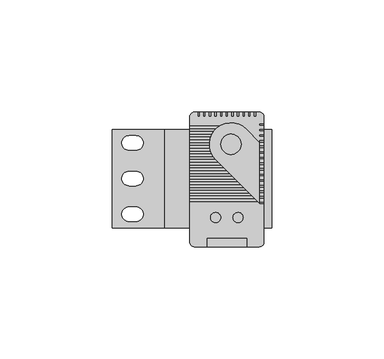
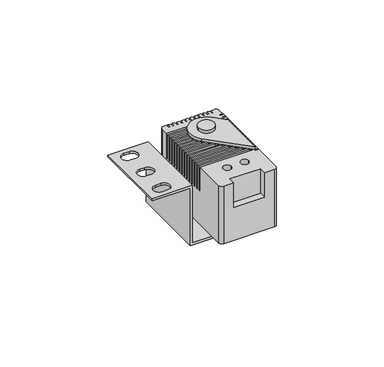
"""IFC4 building model written with IfcOpenShell, lengths in millimetres: proxy geometry, Термостат : TS-A1."""

from ifc_helpers import new_model, si_unit, point, frame, frame_2d, origin, place, context, project, spatial, polyline, circle_curve, trimmed, segment, composite_curve, outline, extrude, source, transform, mapped, element, save
from ifc_brep_helpers import plane_surface, cylinder_surface, revolved_surface, advanced_brep


def generic_models_4512c85f(model_context):
    return source(origin(), model_context, "Body", "SolidModel", [
        advanced_brep(
        [(18.5, 27.7, 36.2), (16.5, 29.7, 36.2), (15.0, 29.7, 36.2), (15.0, 27.7, 36.2), (14.0, 27.7, 36.2), (14.0, 29.7, 36.2), (12.5, 29.7, 36.2), (12.5, 27.7, 36.2), (11.5, 27.7, 36.2), (11.5, 29.7, 36.2), (10.0, 29.7, 36.2), (10.0, 27.7, 36.2), (9.0, 27.7, 36.2), (9.0, 29.7, 36.2), (7.5, 29.7, 36.2), (7.5, 27.7, 36.2), (6.5, 27.7, 36.2), (6.5, 29.7, 36.2), (5.0, 29.7, 36.2), (5.0, 27.7, 36.2), (4.0, 27.7, 36.2), (4.0, 29.7, 36.2), (2.5, 29.7, 36.2), (2.5, 27.7, 36.2), (1.5, 27.7, 36.2), (1.5, 29.7, 36.2), (0.0, 29.7, 36.2), (0.0, 27.7, 36.2), (-1.0, 27.7, 36.2), (-1.0, 29.7, 36.2), (-2.5, 29.7, 36.2), (-2.5, 27.7, 36.2), (-3.5, 27.7, 36.2), (-3.5, 29.7, 36.2), (-5.0, 29.7, 36.2), (-5.0, 27.7, 36.2), (-6.0, 27.7, 36.2), (-6.0, 29.7, 36.2), (-7.5, 29.7, 36.2), (-7.5, 27.7, 36.2), (-8.5, 27.7, 36.2), (-8.5, 29.7, 36.2), (-10.0, 29.7, 36.2), (-10.0, 27.7, 36.2), (-11.0, 27.7, 36.2), (-11.0, 29.7, 36.2), (-12.5, 29.7, 36.2), (-14.5, 27.7, 36.2), (-14.5, 23.7, 36.2), (-0.8125329, 23.7, 36.2), (-2.8247644, 22.2, 36.2), (-14.5, 22.2, 36.2), (-14.5, 21.2, 36.2), (-3.7163513, 21.2, 36.2), (-4.6667739, 19.7, 36.2), (-14.5, 19.7, 36.2), (-14.5, 18.7, 36.2), (-5.1066137, 18.7, 36.2), (-5.5304613, 17.2, 36.2), (-14.5, 17.2, 36.2), (-14.5, 16.2, 36.2), (-5.6721227, 16.2, 36.2), (-5.6858442, 14.7, 36.2), (-14.5, 14.7, 36.2), (-14.5, 13.7, 36.2), (-5.5629293, 13.7, 36.2), (-5.1696563, 12.2, 36.2), (-14.5, 12.2, 36.2), (-14.5, 11.2, 36.2), (-4.7533432, 11.2, 36.2), (-3.8477402, 9.7, 36.2), (-14.5, 9.7, 36.2), (-14.5, 8.7, 36.2), (-3.0, 8.7, 36.2), (-1.5, 7.2, 36.2), (-14.5, 7.2, 36.2), (-14.5, 6.2, 36.2), (-0.5, 6.2, 36.2), (1.0, 4.7, 36.2), (-14.5, 4.7, 36.2), (-14.5, 3.7, 36.2), (2.0, 3.7, 36.2), (3.5, 2.2, 36.2), (-14.5, 2.2, 36.2), (-14.5, 1.2, 36.2), (4.5, 1.2, 36.2), (6.0, -0.3, 36.2), (-14.5, -0.3, 36.2), (-14.5, -1.3, 36.2), (7.0, -1.3, 36.2), (8.5, -2.8, 36.2), (-14.5, -2.8, 36.2), (-14.5, -3.8, 36.2), (9.5, -3.8, 36.2), (11.0, -5.3, 36.2), (-14.5, -5.3, 36.2), (-14.5, -6.3, 36.2), (12.0, -6.3, 36.2), (13.5, -7.8, 36.2), (-14.5, -7.8, 36.2), (-14.5, -8.8, 36.2), (14.5, -8.8, 36.2), (16.0, -10.3, 36.2), (-14.5, -10.3, 36.2), (-14.5, -28.3, 36.2), (-12.5, -30.3, 36.2), (-7.0, -30.3, 36.2), (-7.0, -26.3, 36.2), (11.0, -26.3, 36.2), (11.0, -30.3, 36.2), (16.5, -30.3, 36.2), (18.5, -28.3, 36.2), (18.5, -11.3, 36.2), (16.5, -11.3, 36.2), (16.5, -10.3, 36.2), (18.5, -10.3, 36.2), (18.5, -8.8, 36.2), (16.5, -8.8, 36.2), (16.5, -7.8, 36.2), (18.5, -7.8, 36.2), (18.5, -6.3, 36.2), (16.5, -6.3, 36.2), (16.5, -5.3, 36.2), (18.5, -5.3, 36.2), (18.5, -3.8, 36.2), (16.5, -3.8, 36.2), (16.5, -2.8, 36.2), (18.5, -2.8, 36.2), (18.5, -1.3, 36.2), (16.5, -1.3, 36.2), (16.5, -0.3, 36.2), (18.5, -0.3, 36.2), (18.5, 1.2, 36.2), (16.5, 1.2, 36.2), (16.5, 2.2, 36.2), (18.5, 2.2, 36.2), (18.5, 3.7, 36.2), (16.5, 3.7, 36.2), (16.5, 4.7, 36.2), (18.5, 4.7, 36.2), (18.5, 6.2, 36.2), (16.5, 6.2, 36.2), (16.5, 7.2, 36.2), (18.5, 7.2, 36.2), (18.5, 8.7, 36.2), (16.5, 8.7, 36.2), (16.5, 9.7, 36.2), (18.5, 9.7, 36.2), (18.5, 11.2, 36.2), (16.5, 11.2, 36.2), (16.5, 12.2, 36.2), (18.5, 12.2, 36.2), (18.5, 13.7, 36.2), (16.5, 13.7, 36.2), (16.5, 14.7, 36.2), (18.5, 14.7, 36.2), (18.5, 16.2, 36.2), (16.5, 16.2, 36.2), (16.5, 17.2, 36.2), (18.5, 17.2, 36.2), (18.5, 18.7, 36.2), (16.5, 18.7, 36.2), (16.5, 19.7, 36.2), (18.5, 19.7, 36.2), (18.5, 21.2, 36.2), (16.5, 21.2, 36.2), (16.5, 22.2, 36.2), (18.5, 22.2, 36.2), (18.5, 23.7, 36.2), (16.5, 23.7, 36.2), (16.5, 24.7, 36.2), (18.5, 24.7, 36.2), (9.25, -17.3, 36.2), (4.75, -17.3, 36.2), (-0.75, -17.3, 36.2), (-5.25, -17.3, 36.2), (18.5, 27.7, 1.2), (18.5, -28.3, 1.2), (16.5, -30.3, 1.2), (-12.5, -30.3, 1.2), (-14.5, -28.3, 1.2), (-14.5, 27.7, 1.2), (-12.5, 29.7, 1.2), (16.5, 29.7, 1.2), (-11.0, 29.7, 21.2), (-10.0, 29.7, 21.2), (-8.5, 29.7, 21.2), (-7.5, 29.7, 21.2), (-6.0, 29.7, 21.2), (-5.0, 29.7, 21.2), (-3.5, 29.7, 21.2), (-2.5, 29.7, 21.2), (-1.0, 29.7, 21.2), (0.0, 29.7, 21.2), (1.5, 29.7, 21.2), (2.5, 29.7, 21.2), (4.0, 29.7, 21.2), (5.0, 29.7, 21.2), (6.5, 29.7, 21.2), (7.5, 29.7, 21.2), (9.0, 29.7, 21.2), (10.0, 29.7, 21.2), (11.5, 29.7, 21.2), (12.5, 29.7, 21.2), (14.0, 29.7, 21.2), (15.0, 29.7, 21.2), (-14.5, -10.3, 21.2), (-14.5, -8.8, 21.2), (-14.5, -7.8, 21.2), (-14.5, -6.3, 21.2), (-14.5, -5.3, 21.2), (-14.5, -3.8, 21.2), (-14.5, -2.8, 21.2), (-14.5, -1.3, 21.2), (-14.5, -0.3, 21.2), (-14.5, 1.2, 21.2), (-14.5, 2.2, 21.2), (-14.5, 3.7, 21.2), (-14.5, 4.7, 21.2), (-14.5, 6.2, 21.2), (-14.5, 7.2, 21.2), (-14.5, 8.7, 21.2), (-14.5, 9.7, 21.2), (-14.5, 11.2, 21.2), (-14.5, 12.2, 21.2), (-14.5, 13.7, 21.2), (-14.5, 14.7, 21.2), (-14.5, 16.2, 21.2), (-14.5, 17.2, 21.2), (-14.5, 18.7, 21.2), (-14.5, 19.7, 21.2), (-14.5, 21.2, 21.2), (-14.5, 22.2, 21.2), (-14.5, 23.7, 21.2), (11.0, -30.3, 21.2), (-7.0, -30.3, 21.2), (18.5, 24.7, 21.2), (18.5, 23.7, 21.2), (18.5, 22.2, 21.2), (18.5, 21.2, 21.2), (18.5, 19.7, 21.2), (18.5, 18.7, 21.2), (18.5, 17.2, 21.2), (18.5, 16.2, 21.2), (18.5, 14.7, 21.2), (18.5, 13.7, 21.2), (18.5, 12.2, 21.2), (18.5, 11.2, 21.2), (18.5, 9.7, 21.2), (18.5, 8.7, 21.2), (18.5, 7.2, 21.2), (18.5, 6.2, 21.2), (18.5, 4.7, 21.2), (18.5, 3.7, 21.2), (18.5, 2.2, 21.2), (18.5, 1.2, 21.2), (18.5, -0.3, 21.2), (18.5, -1.3, 21.2), (18.5, -2.8, 21.2), (18.5, -3.8, 21.2), (18.5, -5.3, 21.2), (18.5, -6.3, 21.2), (18.5, -7.8, 21.2), (18.5, -8.8, 21.2), (18.5, -10.3, 21.2), (18.5, -11.3, 21.2), (4.75, -17.3, 21.2), (9.25, -17.3, 21.2), (-5.25, -17.3, 21.2), (-0.75, -17.3, 21.2), (-7.0, -26.3, 21.2), (11.0, -26.3, 21.2), (14.0, 27.7, 21.2), (15.0, 27.7, 21.2), (11.5, 27.7, 21.2), (12.5, 27.7, 21.2), (9.0, 27.7, 21.2), (10.0, 27.7, 21.2), (6.5, 27.7, 21.2), (7.5, 27.7, 21.2), (4.0, 27.7, 21.2), (5.0, 27.7, 21.2), (1.5, 27.7, 21.2), (2.5, 27.7, 21.2), (-1.0, 27.7, 21.2), (0.0, 27.7, 21.2), (-3.5, 27.7, 21.2), (-2.5, 27.7, 21.2), (-6.0, 27.7, 21.2), (-5.0, 27.7, 21.2), (-8.5, 27.7, 21.2), (-7.5, 27.7, 21.2), (-11.0, 27.7, 21.2), (-10.0, 27.7, 21.2), (16.5, 24.7, 21.2), (16.5, 23.7, 21.2), (16.5, 22.2, 21.2), (16.5, 21.2, 21.2), (16.5, 19.7, 21.2), (16.5, 18.7, 21.2), (16.5, 17.2, 21.2), (16.5, 16.2, 21.2), (16.5, 14.7, 21.2), (16.5, 13.7, 21.2), (16.5, 11.2, 21.2), (16.5, 12.2, 21.2), (16.5, 8.7, 21.2), (16.5, 9.7, 21.2), (16.5, 6.2, 21.2), (16.5, 7.2, 21.2), (16.5, 3.7, 21.2), (16.5, 4.7, 21.2), (16.5, 1.2, 21.2), (16.5, 2.2, 21.2), (16.5, -1.3, 21.2), (16.5, -0.3, 21.2), (16.5, -3.8, 21.2), (16.5, -2.8, 21.2), (16.5, -6.3, 21.2), (16.5, -5.3, 21.2), (16.5, -8.8, 21.2), (16.5, -7.8, 21.2), (16.5, -10.3, 21.2), (16.5, -11.3, 21.2), (-0.8125329, 23.7, 21.2), (-2.8247644, 22.2, 21.2), (-3.7163513, 21.2, 21.2), (-4.6667739, 19.7, 21.2), (-5.1066137, 18.7, 21.2), (-5.5304613, 17.2, 21.2), (-5.6721227, 16.2, 21.2), (-5.6858442, 14.7, 21.2), (-5.5629293, 13.7, 21.2), (-5.1696563, 12.2, 21.2), (-4.7533432, 11.2, 21.2), (-3.8477402, 9.7, 21.2), (-3.0, 8.7, 21.2), (-1.5, 7.2, 21.2), (-0.5, 6.2, 21.2), (1.0, 4.7, 21.2), (2.0, 3.7, 21.2), (3.5, 2.2, 21.2), (4.5, 1.2, 21.2), (6.0, -0.3, 21.2), (7.0, -1.3, 21.2), (8.5, -2.8, 21.2), (9.5, -3.8, 21.2), (11.0, -5.3, 21.2), (12.0, -6.3, 21.2), (13.5, -7.8, 21.2), (14.5, -8.8, 21.2), (16.0, -10.3, 21.2)],
        [
            (0, 1, circle_curve(frame((16.5, 27.7, 36.2), z_axis=(0.0, 0.0, 1.0), x_axis=(1.0, 0.0, 0.0)), 2.0)),
            (1, 2),
            (2, 3),
            (3, 4),
            (4, 5),
            (5, 6),
            (6, 7),
            (7, 8),
            (8, 9),
            (9, 10),
            (10, 11),
            (11, 12),
            (12, 13),
            (13, 14),
            (14, 15),
            (15, 16),
            (16, 17),
            (17, 18),
            (18, 19),
            (19, 20),
            (20, 21),
            (21, 22),
            (22, 23),
            (23, 24),
            (24, 25),
            (25, 26),
            (26, 27),
            (27, 28),
            (28, 29),
            (29, 30),
            (30, 31),
            (31, 32),
            (32, 33),
            (33, 34),
            (34, 35),
            (35, 36),
            (36, 37),
            (37, 38),
            (38, 39),
            (39, 40),
            (40, 41),
            (41, 42),
            (42, 43),
            (43, 44),
            (44, 45),
            (45, 46),
            (46, 47, circle_curve(frame((-12.5, 27.7, 36.2), z_axis=(0.0, 0.0, 1.0), x_axis=(1.0, 0.0, 0.0)), 2.0)),
            (47, 48),
            (48, 49),
            (49, 50, circle_curve(frame((3.8370491, 15.3629509, 36.2), z_axis=(0.0, 0.0, 1.0), x_axis=(1.0, 0.0, 0.0)), 9.5459415)),
            (50, 51),
            (51, 52),
            (52, 53),
            (53, 54, circle_curve(frame((3.8370491, 15.3629509, 36.2), z_axis=(0.0, 0.0, 1.0), x_axis=(1.0, 0.0, 0.0)), 9.5459415)),
            (54, 55),
            (55, 56),
            (56, 57),
            (57, 58, circle_curve(frame((3.8370491, 15.3629509, 36.2), z_axis=(0.0, 0.0, 1.0), x_axis=(1.0, 0.0, 0.0)), 9.5459415)),
            (58, 59),
            (59, 60),
            (60, 61),
            (61, 62, circle_curve(frame((3.8370491, 15.3629509, 36.2), z_axis=(0.0, 0.0, 1.0), x_axis=(1.0, 0.0, 0.0)), 9.5459415)),
            (62, 63),
            (63, 64),
            (64, 65),
            (65, 66, circle_curve(frame((3.8370491, 15.3629509, 36.2), z_axis=(0.0, 0.0, 1.0), x_axis=(1.0, 0.0, 0.0)), 9.5459415)),
            (66, 67),
            (67, 68),
            (68, 69),
            (69, 70, circle_curve(frame((3.8370491, 15.3629509, 36.2), z_axis=(0.0, 0.0, 1.0), x_axis=(1.0, 0.0, 0.0)), 9.5459415)),
            (70, 71),
            (71, 72),
            (72, 73),
            (73, 74),
            (74, 75),
            (75, 76),
            (76, 77),
            (77, 78),
            (78, 79),
            (79, 80),
            (80, 81),
            (81, 82),
            (82, 83),
            (83, 84),
            (84, 85),
            (85, 86),
            (86, 87),
            (87, 88),
            (88, 89),
            (89, 90),
            (90, 91),
            (91, 92),
            (92, 93),
            (93, 94),
            (94, 95),
            (95, 96),
            (96, 97),
            (97, 98),
            (98, 99),
            (99, 100),
            (100, 101),
            (101, 102),
            (102, 103),
            (103, 104),
            (104, 105, circle_curve(frame((-12.5, -28.3, 36.2), z_axis=(0.0, 0.0, 1.0), x_axis=(1.0, 0.0, 0.0)), 2.0)),
            (105, 106),
            (106, 107),
            (107, 108),
            (108, 109),
            (109, 110),
            (110, 111, circle_curve(frame((16.5, -28.3, 36.2), z_axis=(0.0, 0.0, 1.0), x_axis=(1.0, 0.0, 0.0)), 2.0)),
            (111, 112),
            (112, 113),
            (113, 114),
            (114, 115),
            (115, 116),
            (116, 117),
            (117, 118),
            (118, 119),
            (119, 120),
            (120, 121),
            (121, 122),
            (122, 123),
            (123, 124),
            (124, 125),
            (125, 126),
            (126, 127),
            (127, 128),
            (128, 129),
            (129, 130),
            (130, 131),
            (131, 132),
            (132, 133),
            (133, 134),
            (134, 135),
            (135, 136),
            (136, 137),
            (137, 138),
            (138, 139),
            (139, 140),
            (140, 141),
            (141, 142),
            (142, 143),
            (143, 144),
            (144, 145),
            (145, 146),
            (146, 147),
            (147, 148),
            (148, 149),
            (149, 150),
            (150, 151),
            (151, 152),
            (152, 153),
            (153, 154),
            (154, 155),
            (155, 156),
            (156, 157),
            (157, 158),
            (158, 159),
            (159, 160),
            (160, 161),
            (161, 162),
            (162, 163),
            (163, 164),
            (164, 165),
            (165, 166),
            (166, 167),
            (167, 168),
            (168, 169),
            (169, 170),
            (170, 171),
            (171, 0),
            (172, 173, circle_curve(frame((7.0, -17.3, 36.2), z_axis=(0.0, 0.0, -1.0), x_axis=(1.0, 0.0, 0.0)), 2.25)),
            (173, 172, circle_curve(frame((7.0, -17.3, 36.2), z_axis=(0.0, 0.0, -1.0), x_axis=(1.0, 0.0, 0.0)), 2.25)),
            (174, 175, circle_curve(frame((-3.0, -17.3, 36.2), z_axis=(0.0, 0.0, -1.0), x_axis=(1.0, 0.0, 0.0)), 2.25)),
            (175, 174, circle_curve(frame((-3.0, -17.3, 36.2), z_axis=(0.0, 0.0, -1.0), x_axis=(1.0, 0.0, 0.0)), 2.25)),
            (176, 177),
            (177, 178, circle_curve(frame((16.5, -28.3, 1.2), z_axis=(0.0, 0.0, -1.0), x_axis=(1.0, 0.0, 0.0)), 2.0)),
            (178, 179),
            (179, 180, circle_curve(frame((-12.5, -28.3, 1.2), z_axis=(0.0, 0.0, -1.0), x_axis=(1.0, 0.0, 0.0)), 2.0)),
            (180, 181),
            (181, 182, circle_curve(frame((-12.5, 27.7, 1.2), z_axis=(0.0, 0.0, -1.0), x_axis=(1.0, 0.0, 0.0)), 2.0)),
            (182, 183),
            (183, 176, circle_curve(frame((16.5, 27.7, 1.2), z_axis=(0.0, 0.0, -1.0), x_axis=(1.0, 0.0, 0.0)), 2.0)),
            (0, 176),
            (183, 1),
            (182, 46),
            (45, 184),
            (184, 185),
            (185, 42),
            (41, 186),
            (186, 187),
            (187, 38),
            (37, 188),
            (188, 189),
            (189, 34),
            (33, 190),
            (190, 191),
            (191, 30),
            (29, 192),
            (192, 193),
            (193, 26),
            (25, 194),
            (194, 195),
            (195, 22),
            (21, 196),
            (196, 197),
            (197, 18),
            (17, 198),
            (198, 199),
            (199, 14),
            (13, 200),
            (200, 201),
            (201, 10),
            (9, 202),
            (202, 203),
            (203, 6),
            (5, 204),
            (204, 205),
            (205, 2),
            (181, 47),
            (180, 104),
            (103, 206),
            (206, 207),
            (207, 100),
            (99, 208),
            (208, 209),
            (209, 96),
            (95, 210),
            (210, 211),
            (211, 92),
            (91, 212),
            (212, 213),
            (213, 88),
            (87, 214),
            (214, 215),
            (215, 84),
            (83, 216),
            (216, 217),
            (217, 80),
            (79, 218),
            (218, 219),
            (219, 76),
            (75, 220),
            (220, 221),
            (221, 72),
            (71, 222),
            (222, 223),
            (223, 68),
            (67, 224),
            (224, 225),
            (225, 64),
            (63, 226),
            (226, 227),
            (227, 60),
            (59, 228),
            (228, 229),
            (229, 56),
            (55, 230),
            (230, 231),
            (231, 52),
            (51, 232),
            (232, 233),
            (233, 48),
            (179, 105),
            (178, 110),
            (109, 234),
            (234, 235),
            (235, 106),
            (177, 111),
            (171, 236),
            (236, 237),
            (237, 168),
            (167, 238),
            (238, 239),
            (239, 164),
            (163, 240),
            (240, 241),
            (241, 160),
            (159, 242),
            (242, 243),
            (243, 156),
            (155, 244),
            (244, 245),
            (245, 152),
            (151, 246),
            (246, 247),
            (247, 148),
            (147, 248),
            (248, 249),
            (249, 144),
            (143, 250),
            (250, 251),
            (251, 140),
            (139, 252),
            (252, 253),
            (253, 136),
            (135, 254),
            (254, 255),
            (255, 132),
            (131, 256),
            (256, 257),
            (257, 128),
            (127, 258),
            (258, 259),
            (259, 124),
            (123, 260),
            (260, 261),
            (261, 120),
            (119, 262),
            (262, 263),
            (263, 116),
            (115, 264),
            (264, 265),
            (265, 112),
            (266, 267, circle_curve(frame((7.0, -17.3, 21.2), z_axis=(0.0, 0.0, 1.0), x_axis=(1.0, 0.0, 0.0)), 2.25)),
            (267, 266, circle_curve(frame((7.0, -17.3, 21.2), z_axis=(0.0, 0.0, 1.0), x_axis=(1.0, 0.0, 0.0)), 2.25)),
            (268, 269, circle_curve(frame((-3.0, -17.3, 21.2), z_axis=(0.0, 0.0, 1.0), x_axis=(1.0, 0.0, 0.0)), 2.25)),
            (269, 268, circle_curve(frame((-3.0, -17.3, 21.2), z_axis=(0.0, 0.0, 1.0), x_axis=(1.0, 0.0, 0.0)), 2.25)),
            (270, 235),
            (234, 271),
            (271, 270),
            (204, 272),
            (272, 273),
            (273, 205),
            (202, 274),
            (274, 275),
            (275, 203),
            (200, 276),
            (276, 277),
            (277, 201),
            (198, 278),
            (278, 279),
            (279, 199),
            (196, 280),
            (280, 281),
            (281, 197),
            (194, 282),
            (282, 283),
            (283, 195),
            (192, 284),
            (284, 285),
            (285, 193),
            (190, 286),
            (286, 287),
            (287, 191),
            (188, 288),
            (288, 289),
            (289, 189),
            (186, 290),
            (290, 291),
            (291, 187),
            (184, 292),
            (292, 293),
            (293, 185),
            (236, 294),
            (294, 295),
            (295, 237),
            (238, 296),
            (296, 297),
            (297, 239),
            (240, 298),
            (298, 299),
            (299, 241),
            (242, 300),
            (300, 301),
            (301, 243),
            (244, 302),
            (302, 303),
            (303, 245),
            (304, 247),
            (246, 305),
            (305, 304),
            (306, 249),
            (248, 307),
            (307, 306),
            (308, 251),
            (250, 309),
            (309, 308),
            (310, 253),
            (252, 311),
            (311, 310),
            (312, 255),
            (254, 313),
            (313, 312),
            (314, 257),
            (256, 315),
            (315, 314),
            (316, 259),
            (258, 317),
            (317, 316),
            (318, 261),
            (260, 319),
            (319, 318),
            (320, 263),
            (262, 321),
            (321, 320),
            (264, 322),
            (322, 323),
            (323, 265),
            (324, 233),
            (232, 325),
            (325, 324, circle_curve(frame((3.8370491, 15.3629509, 21.2), z_axis=(0.0, 0.0, -1.0), x_axis=(1.0, 0.0, 0.0)), 9.5459415)),
            (326, 231),
            (230, 327),
            (327, 326, circle_curve(frame((3.8370491, 15.3629509, 21.2), z_axis=(0.0, 0.0, -1.0), x_axis=(1.0, 0.0, 0.0)), 9.5459415)),
            (328, 229),
            (228, 329),
            (329, 328, circle_curve(frame((3.8370491, 15.3629509, 21.2), z_axis=(0.0, 0.0, -1.0), x_axis=(1.0, 0.0, 0.0)), 9.5459415)),
            (330, 227),
            (226, 331),
            (331, 330, circle_curve(frame((3.8370491, 15.3629509, 21.2), z_axis=(0.0, 0.0, -1.0), x_axis=(1.0, 0.0, 0.0)), 9.5459415)),
            (332, 225),
            (224, 333),
            (333, 332, circle_curve(frame((3.8370491, 15.3629509, 21.2), z_axis=(0.0, 0.0, -1.0), x_axis=(1.0, 0.0, 0.0)), 9.5459415)),
            (334, 223),
            (222, 335),
            (335, 334, circle_curve(frame((3.8370491, 15.3629509, 21.2), z_axis=(0.0, 0.0, -1.0), x_axis=(1.0, 0.0, 0.0)), 9.5459415)),
            (336, 221),
            (220, 337),
            (337, 336),
            (338, 219),
            (218, 339),
            (339, 338),
            (340, 217),
            (216, 341),
            (341, 340),
            (342, 215),
            (214, 343),
            (343, 342),
            (344, 213),
            (212, 345),
            (345, 344),
            (346, 211),
            (210, 347),
            (347, 346),
            (348, 209),
            (208, 349),
            (349, 348),
            (350, 207),
            (206, 351),
            (351, 350),
            (266, 173),
            (172, 267),
            (268, 175),
            (174, 269),
            (270, 107),
            (108, 271),
            (4, 272),
            (3, 273),
            (8, 274),
            (7, 275),
            (12, 276),
            (11, 277),
            (16, 278),
            (15, 279),
            (20, 280),
            (19, 281),
            (24, 282),
            (23, 283),
            (28, 284),
            (27, 285),
            (32, 286),
            (31, 287),
            (36, 288),
            (35, 289),
            (40, 290),
            (39, 291),
            (44, 292),
            (43, 293),
            (170, 294),
            (169, 295),
            (166, 296),
            (165, 297),
            (162, 298),
            (161, 299),
            (158, 300),
            (157, 301),
            (154, 302),
            (153, 303),
            (304, 149),
            (150, 305),
            (306, 145),
            (146, 307),
            (308, 141),
            (142, 309),
            (310, 137),
            (138, 311),
            (312, 133),
            (134, 313),
            (314, 129),
            (130, 315),
            (316, 125),
            (126, 317),
            (318, 121),
            (122, 319),
            (320, 117),
            (118, 321),
            (114, 322),
            (113, 323),
            (324, 49),
            (50, 325),
            (326, 53),
            (54, 327),
            (328, 57),
            (58, 329),
            (330, 61),
            (62, 331),
            (332, 65),
            (66, 333),
            (334, 69),
            (70, 335),
            (336, 73),
            (74, 337),
            (338, 77),
            (78, 339),
            (340, 81),
            (82, 341),
            (342, 85),
            (86, 343),
            (344, 89),
            (90, 345),
            (346, 93),
            (94, 347),
            (348, 97),
            (98, 349),
            (350, 101),
            (102, 351),
        ],
        [
            plane_surface(frame((18.5, 27.7, 36.2), z_axis=(0.0, 0.0, 1.0), x_axis=(0.0, 1.0, 0.0))),
            plane_surface(frame((18.5, 27.7, 1.2), z_axis=(0.0, 0.0, -1.0), x_axis=(0.0, -1.0, 0.0))),
            cylinder_surface(frame((16.5, 27.7, 1.2), z_axis=(0.0, 0.0, 1.0), x_axis=(1.0, 0.0, 0.0)), 2.0),
            plane_surface(frame((16.5, 29.7, 36.2), z_axis=(0.0, 1.0, 0.0), x_axis=(0.0, 0.0, -1.0))),
            cylinder_surface(frame((-12.5, 27.7, 1.2), z_axis=(0.0, 0.0, 1.0), x_axis=(1.0, 0.0, 0.0)), 2.0),
            plane_surface(frame((-14.5, 27.7, 36.2), z_axis=(-1.0, 0.0, 0.0), x_axis=(0.0, 0.0, -1.0))),
            cylinder_surface(frame((-12.5, -28.3, 1.2), z_axis=(0.0, 0.0, 1.0), x_axis=(1.0, 0.0, 0.0)), 2.0),
            plane_surface(frame((-12.5, -30.3, 36.2), z_axis=(0.0, -1.0, 0.0), x_axis=(0.0, 0.0, -1.0))),
            cylinder_surface(frame((16.5, -28.3, 1.2), z_axis=(0.0, 0.0, 1.0), x_axis=(1.0, 0.0, 0.0)), 2.0),
            plane_surface(frame((18.5, -28.3, 36.2), z_axis=(1.0, 0.0, 0.0), x_axis=(0.0, 0.0, -1.0))),
            plane_surface(frame((-41.5, 19.2, 21.2), z_axis=(0.0, 0.0, 1.0), x_axis=(1.0, 0.0, 0.0))),
            revolved_surface(polyline([(9.25, -17.3, 36.2), (9.25, -17.3, 21.2)]), (7.0, -17.3, 0.0), (0.0, 0.0, 1.0)),
            revolved_surface(polyline([(-0.75, -17.3, 36.2), (-0.75, -17.3, 21.2)]), (-3.0, -17.3, 0.0), (0.0, 0.0, 1.0)),
            plane_surface(frame((-7.0, -26.3, 36.2), z_axis=(1.0, 0.0, 0.0), x_axis=(0.0, 0.0, -1.0))),
            plane_surface(frame((11.0, -30.3, 36.2), z_axis=(-1.0, 0.0, 0.0), x_axis=(0.0, 0.0, -1.0))),
            plane_surface(frame((11.0, -26.3, 36.2), z_axis=(0.0, -1.0, 0.0), x_axis=(0.0, 0.0, -1.0))),
            plane_surface(frame((14.0, 29.7, 36.2), z_axis=(1.0, 0.0, 0.0), x_axis=(0.0, 0.0, -1.0))),
            plane_surface(frame((14.0, 27.7, 36.2), z_axis=(0.0, 1.0, 0.0), x_axis=(0.0, 0.0, -1.0))),
            plane_surface(frame((15.0, 27.7, 36.2), z_axis=(-1.0, 0.0, 0.0), x_axis=(0.0, 0.0, -1.0))),
            plane_surface(frame((11.5, 29.7, 36.2), z_axis=(1.0, 0.0, 0.0), x_axis=(0.0, 0.0, -1.0))),
            plane_surface(frame((11.5, 27.7, 36.2), z_axis=(0.0, 1.0, 0.0), x_axis=(0.0, 0.0, -1.0))),
            plane_surface(frame((12.5, 27.7, 36.2), z_axis=(-1.0, 0.0, 0.0), x_axis=(0.0, 0.0, -1.0))),
            plane_surface(frame((9.0, 29.7, 36.2), z_axis=(1.0, 0.0, 0.0), x_axis=(0.0, 0.0, -1.0))),
            plane_surface(frame((9.0, 27.7, 36.2), z_axis=(0.0, 1.0, 0.0), x_axis=(0.0, 0.0, -1.0))),
            plane_surface(frame((10.0, 27.7, 36.2), z_axis=(-1.0, 0.0, 0.0), x_axis=(0.0, 0.0, -1.0))),
            plane_surface(frame((6.5, 29.7, 36.2), z_axis=(1.0, 0.0, 0.0), x_axis=(0.0, 0.0, -1.0))),
            plane_surface(frame((6.5, 27.7, 36.2), z_axis=(0.0, 1.0, 0.0), x_axis=(0.0, 0.0, -1.0))),
            plane_surface(frame((7.5, 27.7, 36.2), z_axis=(-1.0, 0.0, 0.0), x_axis=(0.0, 0.0, -1.0))),
            plane_surface(frame((4.0, 29.7, 36.2), z_axis=(1.0, 0.0, 0.0), x_axis=(0.0, 0.0, -1.0))),
            plane_surface(frame((4.0, 27.7, 36.2), z_axis=(0.0, 1.0, 0.0), x_axis=(0.0, 0.0, -1.0))),
            plane_surface(frame((5.0, 27.7, 36.2), z_axis=(-1.0, 0.0, 0.0), x_axis=(0.0, 0.0, -1.0))),
            plane_surface(frame((1.5, 29.7, 36.2), z_axis=(1.0, 0.0, 0.0), x_axis=(0.0, 0.0, -1.0))),
            plane_surface(frame((1.5, 27.7, 36.2), z_axis=(0.0, 1.0, 0.0), x_axis=(0.0, 0.0, -1.0))),
            plane_surface(frame((2.5, 27.7, 36.2), z_axis=(-1.0, 0.0, 0.0), x_axis=(0.0, 0.0, -1.0))),
            plane_surface(frame((-1.0, 29.7, 36.2), z_axis=(1.0, 0.0, 0.0), x_axis=(0.0, 0.0, -1.0))),
            plane_surface(frame((-1.0, 27.7, 36.2), z_axis=(0.0, 1.0, 0.0), x_axis=(0.0, 0.0, -1.0))),
            plane_surface(frame((0.0, 27.7, 36.2), z_axis=(-1.0, 0.0, 0.0), x_axis=(0.0, 0.0, -1.0))),
            plane_surface(frame((-3.5, 29.7, 36.2), z_axis=(1.0, 0.0, 0.0), x_axis=(0.0, 0.0, -1.0))),
            plane_surface(frame((-3.5, 27.7, 36.2), z_axis=(0.0, 1.0, 0.0), x_axis=(0.0, 0.0, -1.0))),
            plane_surface(frame((-2.5, 27.7, 36.2), z_axis=(-1.0, 0.0, 0.0), x_axis=(0.0, 0.0, -1.0))),
            plane_surface(frame((-6.0, 29.7, 36.2), z_axis=(1.0, 0.0, 0.0), x_axis=(0.0, 0.0, -1.0))),
            plane_surface(frame((-6.0, 27.7, 36.2), z_axis=(0.0, 1.0, 0.0), x_axis=(0.0, 0.0, -1.0))),
            plane_surface(frame((-5.0, 27.7, 36.2), z_axis=(-1.0, 0.0, 0.0), x_axis=(0.0, 0.0, -1.0))),
            plane_surface(frame((-8.5, 29.7, 36.2), z_axis=(1.0, 0.0, 0.0), x_axis=(0.0, 0.0, -1.0))),
            plane_surface(frame((-8.5, 27.7, 36.2), z_axis=(0.0, 1.0, 0.0), x_axis=(0.0, 0.0, -1.0))),
            plane_surface(frame((-7.5, 27.7, 36.2), z_axis=(-1.0, 0.0, 0.0), x_axis=(0.0, 0.0, -1.0))),
            plane_surface(frame((-11.0, 29.7, 36.2), z_axis=(1.0, 0.0, 0.0), x_axis=(0.0, 0.0, -1.0))),
            plane_surface(frame((-11.0, 27.7, 36.2), z_axis=(0.0, 1.0, 0.0), x_axis=(0.0, 0.0, -1.0))),
            plane_surface(frame((-10.0, 27.7, 36.2), z_axis=(-1.0, 0.0, 0.0), x_axis=(0.0, 0.0, -1.0))),
            plane_surface(frame((18.5, 24.7, 36.2), z_axis=(0.0, -1.0, 0.0), x_axis=(0.0, 0.0, -1.0))),
            plane_surface(frame((16.5, 24.7, 36.2), z_axis=(1.0, 0.0, 0.0), x_axis=(0.0, 0.0, -1.0))),
            plane_surface(frame((16.5, 23.7, 36.2), z_axis=(0.0, 1.0, 0.0), x_axis=(0.0, 0.0, -1.0))),
            plane_surface(frame((18.5, 22.2, 36.2), z_axis=(0.0, -1.0, 0.0), x_axis=(0.0, 0.0, -1.0))),
            plane_surface(frame((16.5, 22.2, 36.2), z_axis=(1.0, 0.0, 0.0), x_axis=(0.0, 0.0, -1.0))),
            plane_surface(frame((16.5, 21.2, 36.2), z_axis=(0.0, 1.0, 0.0), x_axis=(0.0, 0.0, -1.0))),
            plane_surface(frame((18.5, 19.7, 36.2), z_axis=(0.0, -1.0, 0.0), x_axis=(0.0, 0.0, -1.0))),
            plane_surface(frame((16.5, 19.7, 36.2), z_axis=(1.0, 0.0, 0.0), x_axis=(0.0, 0.0, -1.0))),
            plane_surface(frame((16.5, 18.7, 36.2), z_axis=(0.0, 1.0, 0.0), x_axis=(0.0, 0.0, -1.0))),
            plane_surface(frame((18.5, 17.2, 36.2), z_axis=(0.0, -1.0, 0.0), x_axis=(0.0, 0.0, -1.0))),
            plane_surface(frame((16.5, 17.2, 36.2), z_axis=(1.0, 0.0, 0.0), x_axis=(0.0, 0.0, -1.0))),
            plane_surface(frame((16.5, 16.2, 36.2), z_axis=(0.0, 1.0, 0.0), x_axis=(0.0, 0.0, -1.0))),
            plane_surface(frame((18.5, 14.7, 36.2), z_axis=(0.0, -1.0, 0.0), x_axis=(0.0, 0.0, -1.0))),
            plane_surface(frame((16.5, 14.7, 36.2), z_axis=(1.0, 0.0, 0.0), x_axis=(0.0, 0.0, -1.0))),
            plane_surface(frame((16.5, 13.7, 36.2), z_axis=(0.0, 1.0, 0.0), x_axis=(0.0, 0.0, -1.0))),
            plane_surface(frame((16.5, 11.2, 36.2), z_axis=(0.0, 1.0, 0.0), x_axis=(0.0, 0.0, -1.0))),
            plane_surface(frame((18.5, 12.2, 36.2), z_axis=(0.0, -1.0, 0.0), x_axis=(0.0, 0.0, -1.0))),
            plane_surface(frame((16.5, 12.2, 36.2), z_axis=(1.0, 0.0, 0.0), x_axis=(0.0, 0.0, -1.0))),
            plane_surface(frame((16.5, 8.7, 36.2), z_axis=(0.0, 1.0, 0.0), x_axis=(0.0, 0.0, -1.0))),
            plane_surface(frame((18.5, 9.7, 36.2), z_axis=(0.0, -1.0, 0.0), x_axis=(0.0, 0.0, -1.0))),
            plane_surface(frame((16.5, 9.7, 36.2), z_axis=(1.0, 0.0, 0.0), x_axis=(0.0, 0.0, -1.0))),
            plane_surface(frame((16.5, 6.2, 36.2), z_axis=(0.0, 1.0, 0.0), x_axis=(0.0, 0.0, -1.0))),
            plane_surface(frame((18.5, 7.2, 36.2), z_axis=(0.0, -1.0, 0.0), x_axis=(0.0, 0.0, -1.0))),
            plane_surface(frame((16.5, 7.2, 36.2), z_axis=(1.0, 0.0, 0.0), x_axis=(0.0, 0.0, -1.0))),
            plane_surface(frame((16.5, 3.7, 36.2), z_axis=(0.0, 1.0, 0.0), x_axis=(0.0, 0.0, -1.0))),
            plane_surface(frame((18.5, 4.7, 36.2), z_axis=(0.0, -1.0, 0.0), x_axis=(0.0, 0.0, -1.0))),
            plane_surface(frame((16.5, 4.7, 36.2), z_axis=(1.0, 0.0, 0.0), x_axis=(0.0, 0.0, -1.0))),
            plane_surface(frame((16.5, 1.2, 36.2), z_axis=(0.0, 1.0, 0.0), x_axis=(0.0, 0.0, -1.0))),
            plane_surface(frame((18.5, 2.2, 36.2), z_axis=(0.0, -1.0, 0.0), x_axis=(0.0, 0.0, -1.0))),
            plane_surface(frame((16.5, 2.2, 36.2), z_axis=(1.0, 0.0, 0.0), x_axis=(0.0, 0.0, -1.0))),
            plane_surface(frame((16.5, -1.3, 36.2), z_axis=(0.0, 1.0, 0.0), x_axis=(0.0, 0.0, -1.0))),
            plane_surface(frame((18.5, -0.3, 36.2), z_axis=(0.0, -1.0, 0.0), x_axis=(0.0, 0.0, -1.0))),
            plane_surface(frame((16.5, -0.3, 36.2), z_axis=(1.0, 0.0, 0.0), x_axis=(0.0, 0.0, -1.0))),
            plane_surface(frame((16.5, -3.8, 36.2), z_axis=(0.0, 1.0, 0.0), x_axis=(0.0, 0.0, -1.0))),
            plane_surface(frame((18.5, -2.8, 36.2), z_axis=(0.0, -1.0, 0.0), x_axis=(0.0, 0.0, -1.0))),
            plane_surface(frame((16.5, -2.8, 36.2), z_axis=(1.0, 0.0, 0.0), x_axis=(0.0, 0.0, -1.0))),
            plane_surface(frame((16.5, -6.3, 36.2), z_axis=(0.0, 1.0, 0.0), x_axis=(0.0, 0.0, -1.0))),
            plane_surface(frame((18.5, -5.3, 36.2), z_axis=(0.0, -1.0, 0.0), x_axis=(0.0, 0.0, -1.0))),
            plane_surface(frame((16.5, -5.3, 36.2), z_axis=(1.0, 0.0, 0.0), x_axis=(0.0, 0.0, -1.0))),
            plane_surface(frame((16.5, -8.8, 36.2), z_axis=(0.0, 1.0, 0.0), x_axis=(0.0, 0.0, -1.0))),
            plane_surface(frame((18.5, -7.8, 36.2), z_axis=(0.0, -1.0, 0.0), x_axis=(0.0, 0.0, -1.0))),
            plane_surface(frame((16.5, -7.8, 36.2), z_axis=(1.0, 0.0, 0.0), x_axis=(0.0, 0.0, -1.0))),
            plane_surface(frame((18.5, -10.3, 36.2), z_axis=(0.0, -1.0, 0.0), x_axis=(0.0, 0.0, -1.0))),
            plane_surface(frame((16.5, -10.3, 36.2), z_axis=(1.0, 0.0, 0.0), x_axis=(0.0, 0.0, -1.0))),
            plane_surface(frame((16.5, -11.3, 36.2), z_axis=(0.0, 1.0, 0.0), x_axis=(0.0, 0.0, -1.0))),
            plane_surface(frame((-0.8125329, 23.7, 36.2), z_axis=(0.0, -1.0, 0.0), x_axis=(0.0, 0.0, -1.0))),
            plane_surface(frame((-14.5, 22.2, 36.2), z_axis=(0.0, 1.0, 0.0), x_axis=(0.0, 0.0, -1.0))),
            plane_surface(frame((-3.7163513, 21.2, 36.2), z_axis=(0.0, -1.0, 0.0), x_axis=(0.0, 0.0, -1.0))),
            plane_surface(frame((-14.5, 19.7, 36.2), z_axis=(0.0, 1.0, 0.0), x_axis=(0.0, 0.0, -1.0))),
            plane_surface(frame((-5.1066137, 18.7, 36.2), z_axis=(0.0, -1.0, 0.0), x_axis=(0.0, 0.0, -1.0))),
            plane_surface(frame((-14.5, 17.2, 36.2), z_axis=(0.0, 1.0, 0.0), x_axis=(0.0, 0.0, -1.0))),
            plane_surface(frame((-5.6721227, 16.2, 36.2), z_axis=(0.0, -1.0, 0.0), x_axis=(0.0, 0.0, -1.0))),
            plane_surface(frame((-14.5, 14.7, 36.2), z_axis=(0.0, 1.0, 0.0), x_axis=(0.0, 0.0, -1.0))),
            plane_surface(frame((-5.5629293, 13.7, 36.2), z_axis=(0.0, -1.0, 0.0), x_axis=(0.0, 0.0, -1.0))),
            plane_surface(frame((-14.5, 12.2, 36.2), z_axis=(0.0, 1.0, 0.0), x_axis=(0.0, 0.0, -1.0))),
            plane_surface(frame((-4.7533432, 11.2, 36.2), z_axis=(0.0, -1.0, 0.0), x_axis=(0.0, 0.0, -1.0))),
            plane_surface(frame((-14.5, 9.7, 36.2), z_axis=(0.0, 1.0, 0.0), x_axis=(0.0, 0.0, -1.0))),
            plane_surface(frame((-3.0, 8.7, 36.2), z_axis=(0.0, -1.0, 0.0), x_axis=(0.0, 0.0, -1.0))),
            plane_surface(frame((-14.5, 7.2, 36.2), z_axis=(0.0, 1.0, 0.0), x_axis=(0.0, 0.0, -1.0))),
            plane_surface(frame((-0.5, 6.2, 36.2), z_axis=(0.0, -1.0, 0.0), x_axis=(0.0, 0.0, -1.0))),
            plane_surface(frame((-14.5, 4.7, 36.2), z_axis=(0.0, 1.0, 0.0), x_axis=(0.0, 0.0, -1.0))),
            plane_surface(frame((2.0, 3.7, 36.2), z_axis=(0.0, -1.0, 0.0), x_axis=(0.0, 0.0, -1.0))),
            plane_surface(frame((-14.5, 2.2, 36.2), z_axis=(0.0, 1.0, 0.0), x_axis=(0.0, 0.0, -1.0))),
            plane_surface(frame((4.5, 1.2, 36.2), z_axis=(0.0, -1.0, 0.0), x_axis=(0.0, 0.0, -1.0))),
            plane_surface(frame((-14.5, -0.3, 36.2), z_axis=(0.0, 1.0, 0.0), x_axis=(0.0, 0.0, -1.0))),
            plane_surface(frame((7.0, -1.3, 36.2), z_axis=(0.0, -1.0, 0.0), x_axis=(0.0, 0.0, -1.0))),
            plane_surface(frame((-14.5, -2.8, 36.2), z_axis=(0.0, 1.0, 0.0), x_axis=(0.0, 0.0, -1.0))),
            plane_surface(frame((9.5, -3.8, 36.2), z_axis=(0.0, -1.0, 0.0), x_axis=(0.0, 0.0, -1.0))),
            plane_surface(frame((-14.5, -5.3, 36.2), z_axis=(0.0, 1.0, 0.0), x_axis=(0.0, 0.0, -1.0))),
            plane_surface(frame((12.0, -6.3, 36.2), z_axis=(0.0, -1.0, 0.0), x_axis=(0.0, 0.0, -1.0))),
            plane_surface(frame((-14.5, -7.8, 36.2), z_axis=(0.0, 1.0, 0.0), x_axis=(0.0, 0.0, -1.0))),
            plane_surface(frame((14.5, -8.8, 36.2), z_axis=(0.0, -1.0, 0.0), x_axis=(0.0, 0.0, -1.0))),
            plane_surface(frame((-14.5, -10.3, 36.2), z_axis=(0.0, 1.0, 0.0), x_axis=(0.0, 0.0, -1.0))),
            cylinder_surface(frame((3.8370491, 15.3629509, 0.0), z_axis=(0.0, 0.0, -1.0), x_axis=(1.0, 0.0, 0.0)), 9.5459415),
            plane_surface(frame((-1.5, 7.2, 36.2), z_axis=(-0.7071067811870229, -0.7071067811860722, 0.0), x_axis=(0.0, 0.0, -1.0))),
            plane_surface(frame((1.0, 4.7, 36.2), z_axis=(-0.7071067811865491, -0.7071067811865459, 0.0), x_axis=(0.0, 0.0, -1.0))),
            plane_surface(frame((3.5, 2.2, 36.2), z_axis=(-0.7071067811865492, -0.7071067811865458, 0.0), x_axis=(0.0, 0.0, -1.0))),
            plane_surface(frame((6.0, -0.3, 36.2), z_axis=(-0.707106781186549, -0.707106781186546, 0.0), x_axis=(0.0, 0.0, -1.0))),
            plane_surface(frame((8.5, -2.8, 36.2), z_axis=(-0.707106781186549, -0.707106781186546, 0.0), x_axis=(0.0, 0.0, -1.0))),
            plane_surface(frame((11.0, -5.3, 36.2), z_axis=(-0.707106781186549, -0.707106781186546, 0.0), x_axis=(0.0, 0.0, -1.0))),
            plane_surface(frame((13.5, -7.8, 36.2), z_axis=(-0.707106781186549, -0.707106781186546, 0.0), x_axis=(0.0, 0.0, -1.0))),
            plane_surface(frame((16.0, -10.3, 36.2), z_axis=(-0.7071067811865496, -0.7071067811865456, 0.0), x_axis=(0.0, 0.0, -1.0))),
        ],
        [
            (0, [[1, 2, 3, 4, 5, 6, 7, 8, 9, 10, 11, 12, 13, 14, 15, 16, 17, 18, 19, 20, 21, 22, 23, 24, 25, 26, 27, 28, 29, 30, 31, 32, 33, 34, 35, 36, 37, 38, 39, 40, 41, 42, 43, 44, 45, 46, 47, 48, 49, 50, 51, 52, 53, 54, 55, 56, 57, 58, 59, 60, 61, 62, 63, 64, 65, 66, 67, 68, 69, 70, 71, 72, 73, 74, 75, 76, 77, 78, 79, 80, 81, 82, 83, 84, 85, 86, 87, 88, 89, 90, 91, 92, 93, 94, 95, 96, 97, 98, 99, 100, 101, 102, 103, 104, 105, 106, 107, 108, 109, 110, 111, 112, 113, 114, 115, 116, 117, 118, 119, 120, 121, 122, 123, 124, 125, 126, 127, 128, 129, 130, 131, 132, 133, 134, 135, 136, 137, 138, 139, 140, 141, 142, 143, 144, 145, 146, 147, 148, 149, 150, 151, 152, 153, 154, 155, 156, 157, 158, 159, 160, 161, 162, 163, 164, 165, 166, 167, 168, 169, 170, 171, 172], [173, 174], [175, 176]]),
            (1, [[177, 178, 179, 180, 181, 182, 183, 184]]),
            (2, [[-1, 185, -184, 186]]),
            (3, [[-183, 187, -46, 188, 189, 190, -42, 191, 192, 193, -38, 194, 195, 196, -34, 197, 198, 199, -30, 200, 201, 202, -26, 203, 204, 205, -22, 206, 207, 208, -18, 209, 210, 211, -14, 212, 213, 214, -10, 215, 216, 217, -6, 218, 219, 220, -2, -186]]),
            (4, [[-47, -187, -182, 221]]),
            (5, [[-181, 222, -104, 223, 224, 225, -100, 226, 227, 228, -96, 229, 230, 231, -92, 232, 233, 234, -88, 235, 236, 237, -84, 238, 239, 240, -80, 241, 242, 243, -76, 244, 245, 246, -72, 247, 248, 249, -68, 250, 251, 252, -64, 253, 254, 255, -60, 256, 257, 258, -56, 259, 260, 261, -52, 262, 263, 264, -48, -221]]),
            (6, [[-105, -222, -180, 265]]),
            (7, [[-179, 266, -110, 267, 268, 269, -106, -265]]),
            (8, [[-111, -266, -178, 270]]),
            (9, [[-177, -185, -172, 271, 272, 273, -168, 274, 275, 276, -164, 277, 278, 279, -160, 280, 281, 282, -156, 283, 284, 285, -152, 286, 287, 288, -148, 289, 290, 291, -144, 292, 293, 294, -140, 295, 296, 297, -136, 298, 299, 300, -132, 301, 302, 303, -128, 304, 305, 306, -124, 307, 308, 309, -120, 310, 311, 312, -116, 313, 314, 315, -112, -270]]),
            (10, [[316, 317]]),
            (10, [[318, 319]]),
            (10, [[320, -268, 321, 322]]),
            (10, [[323, 324, 325, -219]]),
            (10, [[326, 327, 328, -216]]),
            (10, [[329, 330, 331, -213]]),
            (10, [[332, 333, 334, -210]]),
            (10, [[335, 336, 337, -207]]),
            (10, [[338, 339, 340, -204]]),
            (10, [[341, 342, 343, -201]]),
            (10, [[344, 345, 346, -198]]),
            (10, [[347, 348, 349, -195]]),
            (10, [[350, 351, 352, -192]]),
            (10, [[353, 354, 355, -189]]),
            (10, [[356, 357, 358, -272]]),
            (10, [[359, 360, 361, -275]]),
            (10, [[362, 363, 364, -278]]),
            (10, [[365, 366, 367, -281]]),
            (10, [[368, 369, 370, -284]]),
            (10, [[371, -287, 372, 373]]),
            (10, [[374, -290, 375, 376]]),
            (10, [[377, -293, 378, 379]]),
            (10, [[380, -296, 381, 382]]),
            (10, [[383, -299, 384, 385]]),
            (10, [[386, -302, 387, 388]]),
            (10, [[389, -305, 390, 391]]),
            (10, [[392, -308, 393, 394]]),
            (10, [[395, -311, 396, 397]]),
            (10, [[398, 399, 400, -314]]),
            (10, [[401, -263, 402, 403]]),
            (10, [[404, -260, 405, 406]]),
            (10, [[407, -257, 408, 409]]),
            (10, [[410, -254, 411, 412]]),
            (10, [[413, -251, 414, 415]]),
            (10, [[416, -248, 417, 418]]),
            (10, [[419, -245, 420, 421]]),
            (10, [[422, -242, 423, 424]]),
            (10, [[425, -239, 426, 427]]),
            (10, [[428, -236, 429, 430]]),
            (10, [[431, -233, 432, 433]]),
            (10, [[434, -230, 435, 436]]),
            (10, [[437, -227, 438, 439]]),
            (10, [[440, -224, 441, 442]]),
            (11, [[-316, 443, -173, 444]]),
            (11, [[-317, -444, -174, -443]]),
            (12, [[-318, 445, -175, 446]]),
            (12, [[-319, -446, -176, -445]]),
            (13, [[-320, 447, -107, -269]]),
            (14, [[-321, -267, -109, 448]]),
            (15, [[-322, -448, -108, -447]]),
            (16, [[-323, -218, -5, 449]]),
            (17, [[-324, -449, -4, 450]]),
            (18, [[-325, -450, -3, -220]]),
            (19, [[-326, -215, -9, 451]]),
            (20, [[-327, -451, -8, 452]]),
            (21, [[-328, -452, -7, -217]]),
            (22, [[-329, -212, -13, 453]]),
            (23, [[-330, -453, -12, 454]]),
            (24, [[-331, -454, -11, -214]]),
            (25, [[-332, -209, -17, 455]]),
            (26, [[-333, -455, -16, 456]]),
            (27, [[-334, -456, -15, -211]]),
            (28, [[-335, -206, -21, 457]]),
            (29, [[-336, -457, -20, 458]]),
            (30, [[-337, -458, -19, -208]]),
            (31, [[-338, -203, -25, 459]]),
            (32, [[-339, -459, -24, 460]]),
            (33, [[-340, -460, -23, -205]]),
            (34, [[-341, -200, -29, 461]]),
            (35, [[-342, -461, -28, 462]]),
            (36, [[-343, -462, -27, -202]]),
            (37, [[-344, -197, -33, 463]]),
            (38, [[-345, -463, -32, 464]]),
            (39, [[-346, -464, -31, -199]]),
            (40, [[-347, -194, -37, 465]]),
            (41, [[-348, -465, -36, 466]]),
            (42, [[-349, -466, -35, -196]]),
            (43, [[-350, -191, -41, 467]]),
            (44, [[-351, -467, -40, 468]]),
            (45, [[-352, -468, -39, -193]]),
            (46, [[-353, -188, -45, 469]]),
            (47, [[-354, -469, -44, 470]]),
            (48, [[-355, -470, -43, -190]]),
            (49, [[-356, -271, -171, 471]]),
            (50, [[-357, -471, -170, 472]]),
            (51, [[-358, -472, -169, -273]]),
            (52, [[-359, -274, -167, 473]]),
            (53, [[-360, -473, -166, 474]]),
            (54, [[-361, -474, -165, -276]]),
            (55, [[-362, -277, -163, 475]]),
            (56, [[-363, -475, -162, 476]]),
            (57, [[-364, -476, -161, -279]]),
            (58, [[-365, -280, -159, 477]]),
            (59, [[-366, -477, -158, 478]]),
            (60, [[-367, -478, -157, -282]]),
            (61, [[-368, -283, -155, 479]]),
            (62, [[-369, -479, -154, 480]]),
            (63, [[-370, -480, -153, -285]]),
            (64, [[-371, 481, -149, -288]]),
            (65, [[-372, -286, -151, 482]]),
            (66, [[-373, -482, -150, -481]]),
            (67, [[-374, 483, -145, -291]]),
            (68, [[-375, -289, -147, 484]]),
            (69, [[-376, -484, -146, -483]]),
            (70, [[-377, 485, -141, -294]]),
            (71, [[-378, -292, -143, 486]]),
            (72, [[-379, -486, -142, -485]]),
            (73, [[-380, 487, -137, -297]]),
            (74, [[-381, -295, -139, 488]]),
            (75, [[-382, -488, -138, -487]]),
            (76, [[-383, 489, -133, -300]]),
            (77, [[-384, -298, -135, 490]]),
            (78, [[-385, -490, -134, -489]]),
            (79, [[-386, 491, -129, -303]]),
            (80, [[-387, -301, -131, 492]]),
            (81, [[-388, -492, -130, -491]]),
            (82, [[-389, 493, -125, -306]]),
            (83, [[-390, -304, -127, 494]]),
            (84, [[-391, -494, -126, -493]]),
            (85, [[-392, 495, -121, -309]]),
            (86, [[-393, -307, -123, 496]]),
            (87, [[-394, -496, -122, -495]]),
            (88, [[-395, 497, -117, -312]]),
            (89, [[-396, -310, -119, 498]]),
            (90, [[-397, -498, -118, -497]]),
            (91, [[-398, -313, -115, 499]]),
            (92, [[-399, -499, -114, 500]]),
            (93, [[-400, -500, -113, -315]]),
            (94, [[-401, 501, -49, -264]]),
            (95, [[-402, -262, -51, 502]]),
            (96, [[-404, 503, -53, -261]]),
            (97, [[-405, -259, -55, 504]]),
            (98, [[-407, 505, -57, -258]]),
            (99, [[-408, -256, -59, 506]]),
            (100, [[-410, 507, -61, -255]]),
            (101, [[-411, -253, -63, 508]]),
            (102, [[-413, 509, -65, -252]]),
            (103, [[-414, -250, -67, 510]]),
            (104, [[-416, 511, -69, -249]]),
            (105, [[-417, -247, -71, 512]]),
            (106, [[-419, 513, -73, -246]]),
            (107, [[-420, -244, -75, 514]]),
            (108, [[-422, 515, -77, -243]]),
            (109, [[-423, -241, -79, 516]]),
            (110, [[-425, 517, -81, -240]]),
            (111, [[-426, -238, -83, 518]]),
            (112, [[-428, 519, -85, -237]]),
            (113, [[-429, -235, -87, 520]]),
            (114, [[-431, 521, -89, -234]]),
            (115, [[-432, -232, -91, 522]]),
            (116, [[-434, 523, -93, -231]]),
            (117, [[-435, -229, -95, 524]]),
            (118, [[-437, 525, -97, -228]]),
            (119, [[-438, -226, -99, 526]]),
            (120, [[-440, 527, -101, -225]]),
            (121, [[-441, -223, -103, 528]]),
            (122, [[-403, -502, -50, -501]]),
            (122, [[-406, -504, -54, -503]]),
            (122, [[-409, -506, -58, -505]]),
            (122, [[-412, -508, -62, -507]]),
            (122, [[-415, -510, -66, -509]]),
            (122, [[-418, -512, -70, -511]]),
            (123, [[-421, -514, -74, -513]]),
            (124, [[-424, -516, -78, -515]]),
            (125, [[-427, -518, -82, -517]]),
            (126, [[-430, -520, -86, -519]]),
            (127, [[-433, -522, -90, -521]]),
            (128, [[-436, -524, -94, -523]]),
            (129, [[-439, -526, -98, -525]]),
            (130, [[-442, -528, -102, -527]]),
        ],
    ),
        extrude(outline(composite_curve([segment(trimmed(circle_curve(frame_2d((3.8370491, 15.3629509)), 4.5), [point((-0.6629509, 15.3629509))], [point((8.3370491, 15.3629509))], False, "CARTESIAN"), True, "CONTINUOUS"), segment(trimmed(circle_curve(frame_2d((3.8370491, 15.3629509)), 4.5), [point((8.3370491, 15.3629509))], [point((-0.6629509, 15.3629509))], False, "CARTESIAN"), True, "CONTINUOUS")], self_intersect=False)), frame((0.0, 0.0, 38.2), z_axis=(0.0, 0.0, 1.0), x_axis=(1.0, 0.0, 0.0)), (0.0, 0.0, 1.0), 1.8),
        extrude(outline(composite_curve([segment(polyline([(16.5, -10.8), (-2.9129509, 8.6129509)]), True, "CONTINUOUS"), segment(trimmed(circle_curve(frame_2d((3.8370491, 15.3629509)), 9.5459415), [point((-2.9129509, 8.6129509))], [point((10.5870491, 22.1129509))], False, "CARTESIAN"), True, "CONTINUOUS"), segment(polyline([(10.5870491, 22.1129509), (16.5, 16.2), (16.5, -10.8)]), True, "CONTINUOUS")], self_intersect=False)), frame((0.0, 0.0, 36.2), z_axis=(0.0, 0.0, 1.0), x_axis=(1.0, 0.0, 0.0)), (0.0, 0.0, 1.0), 2.0),
        advanced_brep(
        [(-49.0, 22.0, 36.2), (-25.8, 22.0, 36.2), (-25.8, 22.0, 1.2), (22.0, 22.0, 1.2), (22.0, 22.0, 0.0), (-27.0, 22.0, 0.0), (-27.0, 22.0, 35.0), (-49.0, 22.0, 35.0), (-49.0, -22.0, 36.2), (-49.0, -22.0, 35.0), (-27.0, -22.0, 35.0), (-27.0, -22.0, 0.0), (22.0, -22.0, 0.0), (22.0, -22.0, 1.2), (-25.8, -22.0, 1.2), (-25.8, -22.0, 36.2), (-41.5, 19.2, 36.2), (-38.5, 19.2, 36.2), (-38.5, 12.7, 36.2), (-41.5, 12.7, 36.2), (-38.5, -3.175, 36.2), (-41.5, -3.175, 36.2), (-41.5, 3.325, 36.2), (-38.5, 3.325, 36.2), (-41.5, -12.55, 36.2), (-38.5, -12.55, 36.2), (-38.5, -19.05, 36.2), (-41.5, -19.05, 36.2), (-38.5, 19.2, 35.0), (-41.5, 19.2, 35.0), (-41.5, 12.7, 35.0), (-38.5, 12.7, 35.0), (-41.5, -3.175, 35.0), (-38.5, -3.175, 35.0), (-38.5, 3.325, 35.0), (-41.5, 3.325, 35.0), (-38.5, -12.55, 35.0), (-41.5, -12.55, 35.0), (-41.5, -19.05, 35.0), (-38.5, -19.05, 35.0)],
        [
            (0, 1),
            (1, 2),
            (2, 3),
            (3, 4),
            (4, 5),
            (5, 6),
            (6, 7),
            (7, 0),
            (8, 9),
            (9, 10),
            (10, 11),
            (11, 12),
            (12, 13),
            (13, 14),
            (14, 15),
            (15, 8),
            (0, 8),
            (15, 1),
            (16, 17),
            (17, 18, circle_curve(frame((-38.5, 15.95, 36.2), z_axis=(0.0, 0.0, -1.0), x_axis=(1.0, 0.0, 0.0)), 3.25)),
            (18, 19),
            (19, 16, circle_curve(frame((-41.5, 15.95, 36.2), z_axis=(0.0, 0.0, -1.0), x_axis=(1.0, 0.0, 0.0)), 3.25)),
            (20, 21),
            (21, 22, circle_curve(frame((-41.5, 0.075, 36.2), z_axis=(0.0, 0.0, -1.0), x_axis=(1.0, 0.0, 0.0)), 3.25)),
            (22, 23),
            (23, 20, circle_curve(frame((-38.5, 0.075, 36.2), z_axis=(0.0, 0.0, -1.0), x_axis=(1.0, 0.0, 0.0)), 3.25)),
            (24, 25),
            (25, 26, circle_curve(frame((-38.5, -15.8, 36.2), z_axis=(0.0, 0.0, -1.0), x_axis=(1.0, 0.0, 0.0)), 3.25)),
            (26, 27),
            (27, 24, circle_curve(frame((-41.5, -15.8, 36.2), z_axis=(0.0, 0.0, -1.0), x_axis=(1.0, 0.0, 0.0)), 3.25)),
            (14, 2),
            (13, 3),
            (12, 4),
            (11, 5),
            (10, 6),
            (9, 7),
            (28, 29),
            (29, 30, circle_curve(frame((-41.5, 15.95, 35.0), z_axis=(0.0, 0.0, 1.0), x_axis=(1.0, 0.0, 0.0)), 3.25)),
            (30, 31),
            (31, 28, circle_curve(frame((-38.5, 15.95, 35.0), z_axis=(0.0, 0.0, 1.0), x_axis=(1.0, 0.0, 0.0)), 3.25)),
            (32, 33),
            (33, 34, circle_curve(frame((-38.5, 0.075, 35.0), z_axis=(0.0, 0.0, 1.0), x_axis=(1.0, 0.0, 0.0)), 3.25)),
            (34, 35),
            (35, 32, circle_curve(frame((-41.5, 0.075, 35.0), z_axis=(0.0, 0.0, 1.0), x_axis=(1.0, 0.0, 0.0)), 3.25)),
            (36, 37),
            (37, 38, circle_curve(frame((-41.5, -15.8, 35.0), z_axis=(0.0, 0.0, 1.0), x_axis=(1.0, 0.0, 0.0)), 3.25)),
            (38, 39),
            (39, 36, circle_curve(frame((-38.5, -15.8, 35.0), z_axis=(0.0, 0.0, 1.0), x_axis=(1.0, 0.0, 0.0)), 3.25)),
            (28, 17),
            (16, 29),
            (19, 30),
            (18, 31),
            (32, 21),
            (20, 33),
            (23, 34),
            (22, 35),
            (36, 25),
            (24, 37),
            (27, 38),
            (26, 39),
        ],
        [
            plane_surface(frame((-25.8, 22.0, 36.2), z_axis=(0.0, 1.0, 0.0), x_axis=(1.0, 0.0, 0.0))),
            plane_surface(frame((-25.8, -22.0, 36.2), z_axis=(0.0, -1.0, 0.0), x_axis=(-1.0, 0.0, 0.0))),
            plane_surface(frame((-49.0, 22.0, 36.2), z_axis=(0.0, 0.0, 1.0), x_axis=(0.0, -1.0, 0.0))),
            plane_surface(frame((-25.8, 22.0, 36.2), z_axis=(1.0, 0.0, 0.0), x_axis=(0.0, -1.0, 0.0))),
            plane_surface(frame((-25.8, 22.0, 1.2), z_axis=(0.0, 0.0, 1.0), x_axis=(0.0, -1.0, 0.0))),
            plane_surface(frame((22.0, 22.0, 1.2), z_axis=(1.0, 0.0, 0.0), x_axis=(0.0, -1.0, 0.0))),
            plane_surface(frame((22.0, 22.0, 0.0), z_axis=(0.0, 0.0, -1.0), x_axis=(0.0, -1.0, 0.0))),
            plane_surface(frame((-27.0, 22.0, 0.0), z_axis=(-1.0, 0.0, 0.0), x_axis=(0.0, -1.0, 0.0))),
            plane_surface(frame((-27.0, 22.0, 35.0), z_axis=(0.0, 0.0, -1.0), x_axis=(0.0, -1.0, 0.0))),
            plane_surface(frame((-49.0, 22.0, 35.0), z_axis=(-1.0, 0.0, 0.0), x_axis=(0.0, -1.0, 0.0))),
            plane_surface(frame((-38.5, 19.2, 36.2), z_axis=(0.0, -1.0, 0.0), x_axis=(0.0, 0.0, -1.0))),
            revolved_surface(polyline([(-38.25, 15.95, 36.2), (-38.25, 15.95, 35.0)]), (-41.5, 15.95, 21.2), (0.0, 0.0, 1.0)),
            plane_surface(frame((-41.5, 12.7, 36.2), z_axis=(0.0, 1.0, 0.0), x_axis=(0.0, 0.0, -1.0))),
            revolved_surface(polyline([(-35.25, 15.95, 36.2), (-35.25, 15.95, 35.0)]), (-38.5, 15.95, 21.2), (0.0, 0.0, 1.0)),
            plane_surface(frame((-41.5, -3.175, 36.2), z_axis=(0.0, 1.0, 0.0), x_axis=(0.0, 0.0, -1.0))),
            revolved_surface(polyline([(-35.25, 0.075, 36.2), (-35.25, 0.075, 35.0)]), (-38.5, 0.075, 0.0), (0.0, 0.0, 1.0)),
            plane_surface(frame((-38.5, 3.325, 36.2), z_axis=(0.0, -1.0, 0.0), x_axis=(0.0, 0.0, -1.0))),
            revolved_surface(polyline([(-38.25, 0.075, 36.2), (-38.25, 0.075, 35.0)]), (-41.5, 0.075, 0.0), (0.0, 0.0, 1.0)),
            plane_surface(frame((-38.5, -12.55, 36.2), z_axis=(0.0, -1.0, 0.0), x_axis=(0.0, 0.0, -1.0))),
            revolved_surface(polyline([(-38.25, -15.8, 36.2), (-38.25, -15.8, 35.0)]), (-41.5, -15.8, 0.0), (0.0, 0.0, 1.0)),
            plane_surface(frame((-41.5, -19.05, 36.2), z_axis=(0.0, 1.0, 0.0), x_axis=(0.0, 0.0, -1.0))),
            revolved_surface(polyline([(-35.25, -15.8, 36.2), (-35.25, -15.8, 35.0)]), (-38.5, -15.8, 0.0), (0.0, 0.0, 1.0)),
        ],
        [
            (0, [[1, 2, 3, 4, 5, 6, 7, 8]]),
            (1, [[9, 10, 11, 12, 13, 14, 15, 16]]),
            (2, [[-1, 17, -16, 18], [19, 20, 21, 22], [23, 24, 25, 26], [27, 28, 29, 30]]),
            (3, [[-2, -18, -15, 31]]),
            (4, [[-3, -31, -14, 32]]),
            (5, [[-4, -32, -13, 33]]),
            (6, [[-5, -33, -12, 34]]),
            (7, [[-6, -34, -11, 35]]),
            (8, [[-7, -35, -10, 36], [37, 38, 39, 40], [41, 42, 43, 44], [45, 46, 47, 48]]),
            (9, [[-8, -36, -9, -17]]),
            (10, [[49, -19, 50, -37]]),
            (11, [[-50, -22, 51, -38]]),
            (12, [[-51, -21, 52, -39]]),
            (13, [[-49, -40, -52, -20]]),
            (14, [[53, -23, 54, -41]]),
            (15, [[-54, -26, 55, -42]]),
            (16, [[-55, -25, 56, -43]]),
            (17, [[-53, -44, -56, -24]]),
            (18, [[57, -27, 58, -45]]),
            (19, [[-58, -30, 59, -46]]),
            (20, [[-59, -29, 60, -47]]),
            (21, [[-57, -48, -60, -28]]),
        ],
    ),
    ])


if __name__ == "__main__":
    model = new_model("IFC4")
    model_context = context("Model", 3, world=origin())
    ifc_project = project(units=[si_unit("LENGTHUNIT", "METRE", prefix="MILLI")], contexts=[model_context])
    site = spatial("IfcSite", under=ifc_project)
    building = spatial("IfcBuilding", under=site)
    placement = place(None, origin())
    generic_models_shape = generic_models_4512c85f(model_context)
    element("IfcBuildingElementProxy", 1, Name="Термостат : TS-A1", ObjectType="Термостат : TS-A1", at=placement, inside=building, context=model_context, shape_type="MappedRepresentation", body=[
        mapped(generic_models_shape, transform((0.0, 0.0, 0.0), x_axis=(1.0, 0.0, 0.0), y_axis=(0.0, 1.0, 0.0), z_axis=(0.0, 0.0, 1.0))),
    ])
    save(model, "model.ifc")
